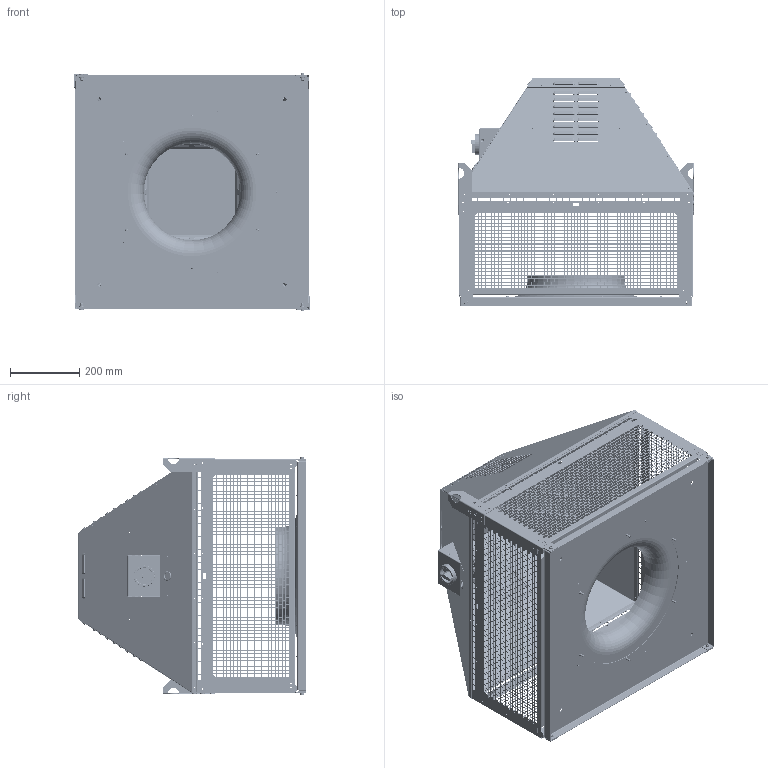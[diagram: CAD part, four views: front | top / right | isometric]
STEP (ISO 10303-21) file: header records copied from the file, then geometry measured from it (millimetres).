
FILE_DESCRIPTION (( 'STEP AP203' ), '1' );
FILE_NAME ('150544-00_DHN450D4F430_step.step', '2019-05-10T10:13:39', ( '' ), ( '' ), 'SwSTEP 2.0', 'SolidWorks 2017', '' );
FILE_SCHEMA (( 'CONFIG_CONTROL_DESIGN' ));
Products named in the file (1): 150544-00_DHN450D4F430_step
Bounding box: 682.3 x 658 x 689.3 mm (x, y, z)
Surface area: 4060753.4 mm2 (no closed solid volume)
Topology: 0 solids, 63 shells, 8001 faces, 37938 edges, 25571 vertices
Faces by surface type: plane 7368, cylinder 339, bspline 250, torus 34, cone 10
Full cylindrical faces by diameter (mm): 3.2 x24, 4.2 x75, 4.5 x54, 5.4 x4, 6 x8, 7.4 x6, 9 x4, 10 x2, 11 x4, 12 x4, 13 x8, 16 x2, 20 x2, 26 x1, 27.5 x1, 61 x1, 279 x1, 281 x1, 426.6 x1, 500 x1
Entity records: 421210 total; most frequent: CARTESIAN_POINT 121675, ORIENTED_EDGE 56116, DIRECTION 52918, EDGE_CURVE 37579, LINE 35538, VECTOR 35538, VERTEX_POINT 25571, EDGE_LOOP 14700
